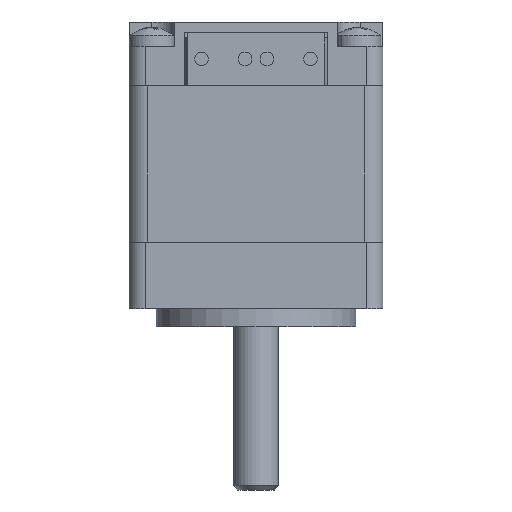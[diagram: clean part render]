
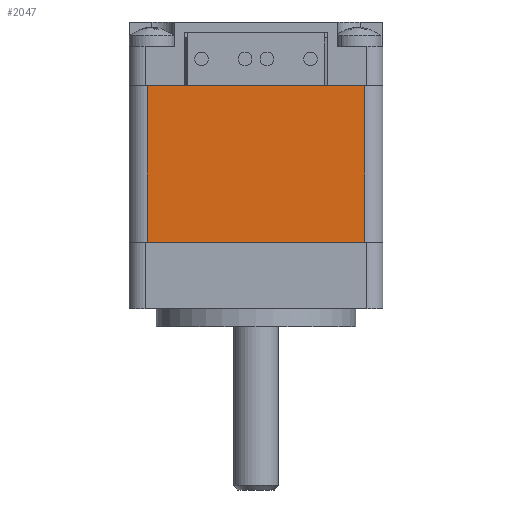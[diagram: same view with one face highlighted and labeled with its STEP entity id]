
A CAD part, front view. The second image highlights one B-rep face of the part: STEP entity #2047.
In plain terms, the highlighted planar face has unit normal (0, -1, 0) as drawn and (0, 1, 0) by its records, which use the part's own axes.
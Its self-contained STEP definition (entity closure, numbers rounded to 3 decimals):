
#20 = CARTESIAN_POINT ( 'NONE',  ( 12., 14., 17.3 ) ) ;
#649 = EDGE_CURVE ( 'NONE', #13120, #4657, #5641, .T. ) ;
#1313 = FACE_OUTER_BOUND ( 'NONE', #7390, .T. ) ;
#1708 = AXIS2_PLACEMENT_3D ( 'NONE', #6575, #12168, #4384 ) ;
#2047 = ADVANCED_FACE ( 'NONE', ( #1313 ), #7693, .F. ) ;
#2074 = EDGE_CURVE ( 'NONE', #4555, #13193, #12669, .T. ) ;
#2863 = ORIENTED_EDGE ( 'NONE', *, *, #2074, .T. ) ;
#3898 = DIRECTION ( 'NONE',  ( 0., 0., 1. ) ) ;
#4384 = DIRECTION ( 'NONE',  ( 0., 0., -1. ) ) ;
#4555 = VERTEX_POINT ( 'NONE', #7280 ) ;
#4657 = VERTEX_POINT ( 'NONE', #13989 ) ;
#5263 = CARTESIAN_POINT ( 'NONE',  ( -12., 14., 17.3 ) ) ;
#5461 = DIRECTION ( 'NONE',  ( 1., 0., 0. ) ) ;
#5552 = CARTESIAN_POINT ( 'NONE',  ( -14., 14., 0. ) ) ;
#5641 = LINE ( 'NONE', #5552, #7361 ) ;
#5673 = DIRECTION ( 'NONE',  ( 1., 0., 0. ) ) ;
#5889 = VECTOR ( 'NONE', #10712, 1000. ) ;
#5940 = ORIENTED_EDGE ( 'NONE', *, *, #6708, .F. ) ;
#6193 = VECTOR ( 'NONE', #3898, 1000. ) ;
#6575 = CARTESIAN_POINT ( 'NONE',  ( -14., 14., 17.3 ) ) ;
#6708 = EDGE_CURVE ( 'NONE', #4657, #13193, #10134, .T. ) ;
#7280 = CARTESIAN_POINT ( 'NONE',  ( -12., 14., 17.3 ) ) ;
#7361 = VECTOR ( 'NONE', #5461, 1000. ) ;
#7390 = EDGE_LOOP ( 'NONE', ( #13576, #2863, #5940, #7651 ) ) ;
#7651 = ORIENTED_EDGE ( 'NONE', *, *, #649, .F. ) ;
#7693 = PLANE ( 'NONE',  #1708 ) ;
#8298 = CARTESIAN_POINT ( 'NONE',  ( 12., 14., 17.3 ) ) ;
#8935 = CARTESIAN_POINT ( 'NONE',  ( 0., 14., 17.3 ) ) ;
#9145 = LINE ( 'NONE', #5263, #5889 ) ;
#9779 = VECTOR ( 'NONE', #5673, 1000. ) ;
#10134 = LINE ( 'NONE', #8298, #6193 ) ;
#10712 = DIRECTION ( 'NONE',  ( 0., 0., -1. ) ) ;
#12168 = DIRECTION ( 'NONE',  ( 0., -1., 0. ) ) ;
#12669 = LINE ( 'NONE', #8935, #9779 ) ;
#12962 = CARTESIAN_POINT ( 'NONE',  ( -12., 14., 0. ) ) ;
#13120 = VERTEX_POINT ( 'NONE', #12962 ) ;
#13193 = VERTEX_POINT ( 'NONE', #20 ) ;
#13576 = ORIENTED_EDGE ( 'NONE', *, *, #13701, .F. ) ;
#13701 = EDGE_CURVE ( 'NONE', #4555, #13120, #9145, .T. ) ;
#13989 = CARTESIAN_POINT ( 'NONE',  ( 12., 14., 0. ) ) ;
